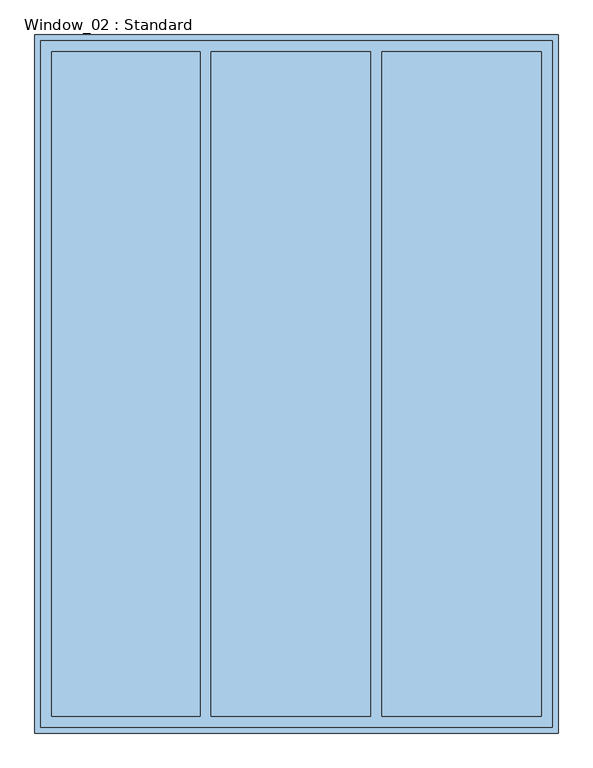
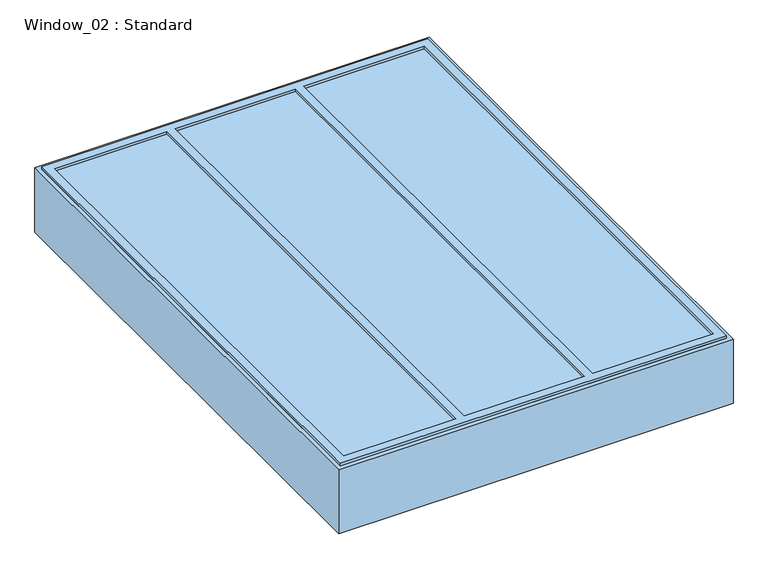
"""IFC4 building model written with IfcOpenShell, lengths in millimetres: window geometry, Window_02 : Standard."""

from ifc_helpers import new_model, si_unit, frame, origin, origin_with_axes, place, context, project, spatial, polyline, outline, extrude, source, transform, mapped, element, save


def window_02_standard_8aaaa128(model_context):
    return source(origin(), model_context, "Body", "SweptSolid", [
        extrude(outline(polyline([(-910.0, -1220.0), (-910.0, 1220.0), (910.0, 1220.0), (910.0, -1220.0), (-910.0, -1220.0)]), holes=[polyline([(-870.0, 1180.0), (-870.0, -1180.0), (-343.3333333, -1180.0), (-343.3333333, 1180.0), (-870.0, 1180.0)]), polyline([(263.3333333, 1180.0), (-303.3333333, 1180.0), (-303.3333333, -1180.0), (263.3333333, -1180.0), (263.3333333, 1180.0)]), polyline([(303.3333333, -1180.0), (870.0, -1180.0), (870.0, 1180.0), (303.3333333, 1180.0), (303.3333333, -1180.0)])]), frame((0.0, 0.0, 315.094128), z_axis=(0.0, 0.0, 1.0), x_axis=(1.0, 0.0, 0.0)), (0.0, 0.0, 1.0), 17.0543259),
        extrude(outline(polyline([(-870.0, 1180.0), (870.0, 1180.0), (870.0, -1180.0), (-870.0, -1180.0), (-870.0, 1180.0)])), frame((0.0, 0.0, 315.094128), z_axis=(0.0, 0.0, 1.0), x_axis=(1.0, 0.0, 0.0)), (0.0, 0.0, 1.0), 4.905872),
        extrude(outline(polyline([(910.0, 1220.0), (910.0, -1220.0), (-910.0, -1220.0), (-910.0, 1220.0), (910.0, 1220.0)]), holes=[polyline([(-870.0, 1180.0), (-870.0, -1180.0), (870.0, -1180.0), (870.0, 1180.0), (-870.0, 1180.0)])]), frame((0.0, 0.0, 250.0), z_axis=(0.0, 0.0, 1.0), x_axis=(1.0, 0.0, 0.0)), (0.0, 0.0, 1.0), 70.0),
        extrude(outline(polyline([(930.0, 1240.0), (930.0, -1240.0), (-930.0, -1240.0), (-930.0, 1240.0), (930.0, 1240.0)]), holes=[polyline([(910.0, 1220.0), (-910.0, 1220.0), (-910.0, -1220.0), (910.0, -1220.0), (910.0, 1220.0)])]), origin_with_axes(), (0.0, 0.0, 1.0), 320.0),
    ])


if __name__ == "__main__":
    model = new_model("IFC4")
    model_context = context("Model", 3, world=origin())
    ifc_project = project(units=[si_unit("LENGTHUNIT", "METRE", prefix="MILLI")], contexts=[model_context])
    site = spatial("IfcSite", under=ifc_project)
    building = spatial("IfcBuilding", under=site)
    placement = place(None, origin())
    window_02_standard_shape = window_02_standard_8aaaa128(model_context)
    element("IfcWindow", 1, ObjectType="Window_02 : Standard", at=placement, inside=building, context=model_context, shape_type="MappedRepresentation", body=[
        mapped(window_02_standard_shape, transform((0.0, 0.0, 0.0), x_axis=(1.0, 0.0, 0.0), y_axis=(0.0, 1.0, 0.0), z_axis=(0.0, 0.0, 1.0))),
    ])
    save(model, "model.ifc")
